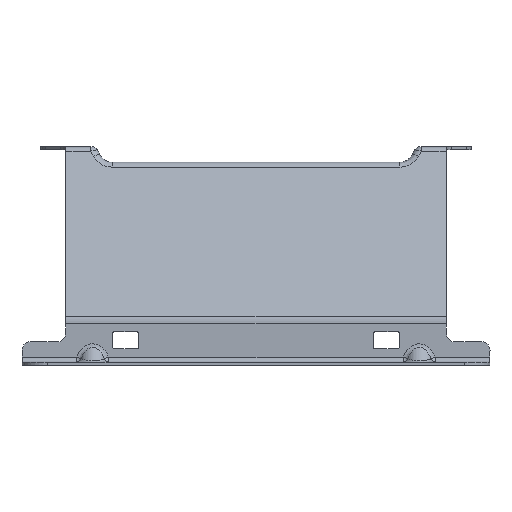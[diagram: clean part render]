
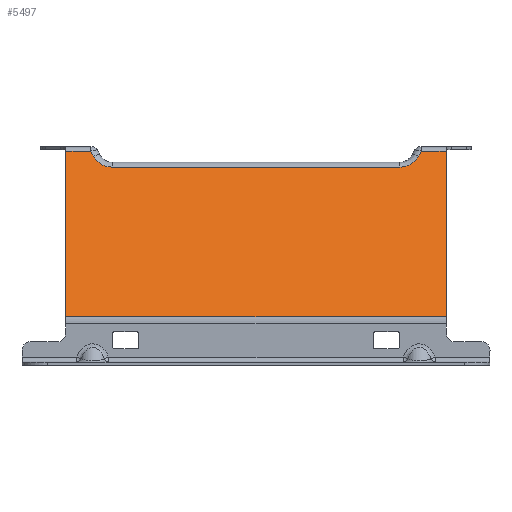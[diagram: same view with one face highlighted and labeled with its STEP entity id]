
A CAD part, left-side view. The second image highlights one B-rep face of the part: STEP entity #5497.
In plain terms, the highlighted planar face has unit normal (-0.906, 0, 0.422).
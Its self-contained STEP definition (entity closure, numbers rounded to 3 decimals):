
#5478=AXIS2_PLACEMENT_3D('Plane Axis2P3D',#5475,#5476,#5477) ;
#910=CARTESIAN_POINT('Vertex',(1078.653,-697.979,147.112)) ;
#913=CARTESIAN_POINT('Line Origine',(1055.794,-697.979,98.06)) ;
#917=CARTESIAN_POINT('Vertex',(1032.935,-697.979,49.008)) ;
#961=CARTESIAN_POINT('Vertex',(1032.935,-471.979,49.008)) ;
#964=CARTESIAN_POINT('Line Origine',(1032.935,-584.979,49.008)) ;
#3138=CARTESIAN_POINT('Vertex',(1074.319,-670.367,137.812)) ;
#3152=CARTESIAN_POINT('Vertex',(1074.319,-499.605,137.812)) ;
#3155=CARTESIAN_POINT('Line Origine',(1074.319,-584.979,137.812)) ;
#3279=CARTESIAN_POINT('Vertex',(1077.348,-488.346,144.312)) ;
#3283=CARTESIAN_POINT('Control Point',(1074.319,-499.605,137.812)) ;
#3284=CARTESIAN_POINT('Control Point',(1074.319,-498.446,137.812)) ;
#3285=CARTESIAN_POINT('Control Point',(1074.379,-497.288,137.941)) ;
#3286=CARTESIAN_POINT('Control Point',(1074.5,-496.156,138.199)) ;
#3287=CARTESIAN_POINT('Control Point',(1074.858,-493.943,138.969)) ;
#3288=CARTESIAN_POINT('Control Point',(1075.42,-492.,140.173)) ;
#3289=CARTESIAN_POINT('Control Point',(1075.752,-491.097,140.885)) ;
#3290=CARTESIAN_POINT('Control Point',(1076.266,-489.97,141.99)) ;
#3291=CARTESIAN_POINT('Control Point',(1076.838,-489.041,143.217)) ;
#3292=CARTESIAN_POINT('Control Point',(1077.005,-488.793,143.574)) ;
#3293=CARTESIAN_POINT('Control Point',(1077.175,-488.562,143.94)) ;
#3294=CARTESIAN_POINT('Control Point',(1077.348,-488.346,144.312)) ;
#3326=CARTESIAN_POINT('Vertex',(1078.653,-486.73,147.112)) ;
#3329=CARTESIAN_POINT('Line Origine',(1056.024,-514.765,98.554)) ;
#4144=CARTESIAN_POINT('Line Origine',(1078.653,-584.979,147.112)) ;
#4148=CARTESIAN_POINT('Vertex',(1078.653,-471.979,147.112)) ;
#4663=CARTESIAN_POINT('Vertex',(1077.348,-681.626,144.312)) ;
#4667=CARTESIAN_POINT('Control Point',(1077.348,-681.626,144.312)) ;
#4668=CARTESIAN_POINT('Control Point',(1076.893,-681.061,143.335)) ;
#4669=CARTESIAN_POINT('Control Point',(1076.461,-680.384,142.407)) ;
#4670=CARTESIAN_POINT('Control Point',(1076.058,-679.596,141.544)) ;
#4671=CARTESIAN_POINT('Control Point',(1075.351,-677.856,140.027)) ;
#4672=CARTESIAN_POINT('Control Point',(1074.826,-675.764,138.9)) ;
#4673=CARTESIAN_POINT('Control Point',(1074.622,-674.674,138.461)) ;
#4674=CARTESIAN_POINT('Control Point',(1074.426,-673.145,138.041)) ;
#4675=CARTESIAN_POINT('Control Point',(1074.341,-671.568,137.858)) ;
#4676=CARTESIAN_POINT('Control Point',(1074.327,-671.168,137.828)) ;
#4677=CARTESIAN_POINT('Control Point',(1074.319,-670.768,137.812)) ;
#4678=CARTESIAN_POINT('Control Point',(1074.319,-670.367,137.812)) ;
#4906=CARTESIAN_POINT('Vertex',(1078.653,-683.242,147.112)) ;
#4909=CARTESIAN_POINT('Line Origine',(1056.024,-655.207,98.554)) ;
#5456=CARTESIAN_POINT('Line Origine',(1078.653,-584.979,147.112)) ;
#5475=CARTESIAN_POINT('Axis2P3D Location',(1031.999,-584.979,47.)) ;
#5480=CARTESIAN_POINT('Line Origine',(1055.794,-471.979,98.06)) ;
#914=DIRECTION('Vector Direction',(0.422,0.,0.906)) ;
#965=DIRECTION('Vector Direction',(0.,1.,0.)) ;
#3156=DIRECTION('Vector Direction',(0.,1.,0.)) ;
#3330=DIRECTION('Vector Direction',(0.374,0.464,0.803)) ;
#4145=DIRECTION('Vector Direction',(0.,1.,0.)) ;
#4910=DIRECTION('Vector Direction',(-0.374,0.464,-0.803)) ;
#5457=DIRECTION('Vector Direction',(0.,1.,0.)) ;
#5476=DIRECTION('Axis2P3D Direction',(-0.906,0.,0.422)) ;
#5477=DIRECTION('Axis2P3D XDirection',(0.422,0.,0.906)) ;
#5481=DIRECTION('Vector Direction',(0.422,0.,0.906)) ;
#915=VECTOR('Line Direction',#914,1.) ;
#966=VECTOR('Line Direction',#965,1.) ;
#3157=VECTOR('Line Direction',#3156,1.) ;
#3331=VECTOR('Line Direction',#3330,1.) ;
#4146=VECTOR('Line Direction',#4145,1.) ;
#4911=VECTOR('Line Direction',#4910,1.) ;
#5458=VECTOR('Line Direction',#5457,1.) ;
#5482=VECTOR('Line Direction',#5481,1.) ;
#5486=ORIENTED_EDGE('',*,*,#919,.T.) ;
#5487=ORIENTED_EDGE('',*,*,#5460,.T.) ;
#5488=ORIENTED_EDGE('',*,*,#4913,.T.) ;
#5489=ORIENTED_EDGE('',*,*,#4679,.T.) ;
#5490=ORIENTED_EDGE('',*,*,#3159,.T.) ;
#5491=ORIENTED_EDGE('',*,*,#3295,.T.) ;
#5492=ORIENTED_EDGE('',*,*,#3333,.T.) ;
#5493=ORIENTED_EDGE('',*,*,#4150,.T.) ;
#5494=ORIENTED_EDGE('',*,*,#5484,.F.) ;
#5495=ORIENTED_EDGE('',*,*,#968,.F.) ;
#5497=ADVANCED_FACE('\X2\6807914D524D652F649194A391D1\X0\-B\X2\7248\X0\-2024.04.18',(#5496),#5479,.T.) ;
#3282=B_SPLINE_CURVE_WITH_KNOTS('',5,(#3283,#3284,#3285,#3286,#3287,#3288,#3289,#3290,#3291,#3292,#3293,#3294),.UNSPECIFIED.,.F.,.U.,(6,3,3,6),(43.43,50.231,57.32,60.127),.UNSPECIFIED.) ;
#4666=B_SPLINE_CURVE_WITH_KNOTS('',5,(#4667,#4668,#4669,#4670,#4671,#4672,#4673,#4674,#4675,#4676,#4677,#4678),.UNSPECIFIED.,.F.,.U.,(6,3,3,6),(42.934,50.3,57.279,59.631),.UNSPECIFIED.) ;
#919=EDGE_CURVE('',#918,#911,#916,.T.) ;
#968=EDGE_CURVE('',#918,#962,#967,.T.) ;
#3159=EDGE_CURVE('',#3139,#3153,#3158,.T.) ;
#3295=EDGE_CURVE('',#3153,#3280,#3282,.T.) ;
#3333=EDGE_CURVE('',#3280,#3327,#3332,.T.) ;
#4150=EDGE_CURVE('',#3327,#4149,#4147,.T.) ;
#4679=EDGE_CURVE('',#4664,#3139,#4666,.T.) ;
#4913=EDGE_CURVE('',#4907,#4664,#4912,.T.) ;
#5460=EDGE_CURVE('',#911,#4907,#5459,.T.) ;
#5484=EDGE_CURVE('',#962,#4149,#5483,.T.) ;
#5485=EDGE_LOOP('',(#5486,#5487,#5488,#5489,#5490,#5491,#5492,#5493,#5494,#5495)) ;
#5496=FACE_OUTER_BOUND('',#5485,.T.) ;
#916=LINE('Line',#913,#915) ;
#967=LINE('Line',#964,#966) ;
#3158=LINE('Line',#3155,#3157) ;
#3332=LINE('Line',#3329,#3331) ;
#4147=LINE('Line',#4144,#4146) ;
#4912=LINE('Line',#4909,#4911) ;
#5459=LINE('Line',#5456,#5458) ;
#5483=LINE('Line',#5480,#5482) ;
#5479=PLANE('Plane',#5478) ;
#911=VERTEX_POINT('',#910) ;
#918=VERTEX_POINT('',#917) ;
#962=VERTEX_POINT('',#961) ;
#3139=VERTEX_POINT('',#3138) ;
#3153=VERTEX_POINT('',#3152) ;
#3280=VERTEX_POINT('',#3279) ;
#3327=VERTEX_POINT('',#3326) ;
#4149=VERTEX_POINT('',#4148) ;
#4664=VERTEX_POINT('',#4663) ;
#4907=VERTEX_POINT('',#4906) ;
